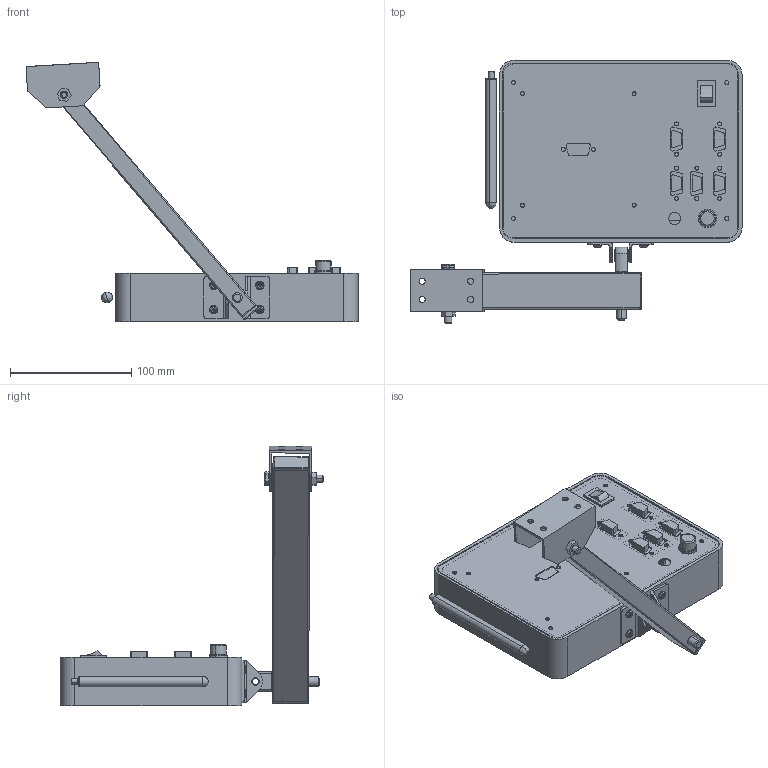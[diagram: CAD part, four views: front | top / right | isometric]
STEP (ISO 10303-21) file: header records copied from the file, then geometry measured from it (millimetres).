
FILE_DESCRIPTION (( 'STEP AP203' ), '1' );
FILE_NAME ('TS-MAX.STEP', '2017-10-05T18:39:01', ( '' ), ( '' ), 'SwSTEP 2.0', 'SolidWorks 2014', '' );
FILE_SCHEMA (( 'CONFIG_CONTROL_DESIGN' ));
Length unit declared in the file: millimetre
Products named in the file (22): základní deska_1; plexi kryt_1; rameno držáku; zadní èelo TS-MAX_1; r嫥 200x150_1; upínací šroub_1; matka M6; mux QDC_1; záslepka držáku; QDC3_1; displej_1; L pro upínací šroub; podložka teflon; kotvení držáku; QDC3+nap奫en燲1; šroub M4x12; al. kryt_1; TS-MAX; stilus_1; vypínaè; pojistkové pouzdro_1; M6x45
Assembly tree (30 placements, depth 2):
  TS-MAX
    r嫥 200x150_1
    plexi kryt_1
    displej_1
    základní deska_1
    zadní èelo TS-MAX_1
    mux QDC_1
    QDC3_1  x3
    QDC3+nap奫en燲1
    pojistkové pouzdro_1
    vypínaè
    L pro upínací šroub  x2
    rameno držáku
    záslepka držáku  x2
    kotvení držáku
    šroub M4x12  x4
    matka M6
    al. kryt_1
    M6x45
    upínací šroub_1
    podložka teflon  x3
    stilus_1
Bounding box: 273.78 x 217.54 x 214.02 mm (x, y, z)
Volume: 506076.1 mm3; surface area: 330603.1 mm2
Topology: 32 solids, 32 shells, 948 faces, 2386 edges, 1541 vertices
Faces by surface type: plane 500, cylinder 360, bspline 74, cone 12, torus 2
Entity records: 25223 total; most frequent: CARTESIAN_POINT 5700, ORIENTED_EDGE 3508, DIRECTION 3470, EDGE_CURVE 1754, AXIS2_PLACEMENT_3D 1163, VERTEX_POINT 1147, LINE 1144, VECTOR 1144
